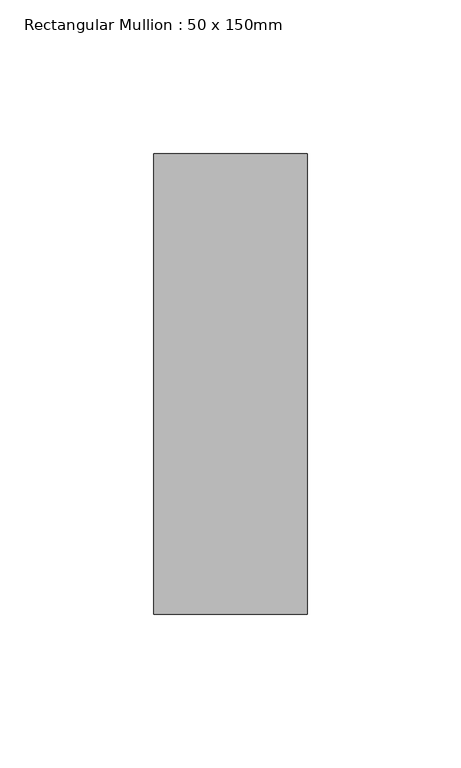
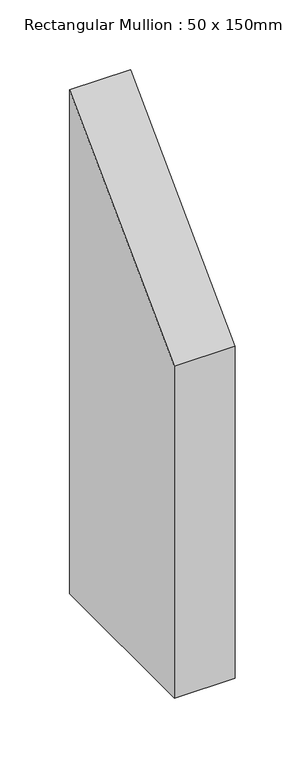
"""IFC4 building model written with IfcOpenShell, lengths in millimetres: member geometry, Rectangular Mullion : 50 x 150mm."""

from ifc_helpers import new_model, si_unit, frame, origin, place, context, project, spatial, polyline, outline, extrude, source, transform, mapped, element, save


def rectangular_mullion_50_x_150mm_cc09da6b(model_context):
    return source(origin(), model_context, "Body", "SweptSolid", [
        extrude(outline(polyline([(-75.0, -75.0), (75.0, 75.0), (75.0, -364.7256931), (-75.0, -364.7256931), (-75.0, -75.0)])), frame((-25.0, 0.0, 0.0), z_axis=(1.0, 0.0, 0.0), x_axis=(0.0, 1.0, 0.0)), (0.0, 0.0, 1.0), 50.0),
    ])


if __name__ == "__main__":
    model = new_model("IFC4")
    model_context = context("Model", 3, world=origin())
    ifc_project = project(units=[si_unit("LENGTHUNIT", "METRE", prefix="MILLI")], contexts=[model_context])
    site = spatial("IfcSite", under=ifc_project)
    building = spatial("IfcBuilding", under=site)
    placement = place(None, origin())
    rectangular_mullion_50_x_150mm_shape = rectangular_mullion_50_x_150mm_cc09da6b(model_context)
    element("IfcMember", 1, ObjectType="Rectangular Mullion : 50 x 150mm", at=placement, inside=building, context=model_context, shape_type="MappedRepresentation", body=[
        mapped(rectangular_mullion_50_x_150mm_shape, transform((0.0, 0.0, 0.0), x_axis=(1.0, 0.0, 0.0), y_axis=(0.0, 1.0, 0.0), z_axis=(0.0, 0.0, 1.0))),
    ])
    save(model, "model.ifc")
